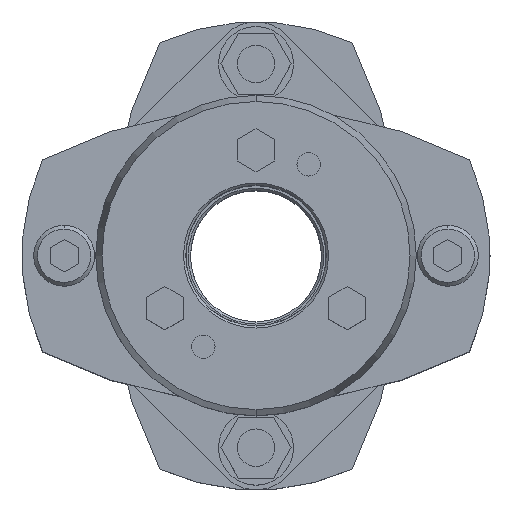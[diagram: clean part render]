
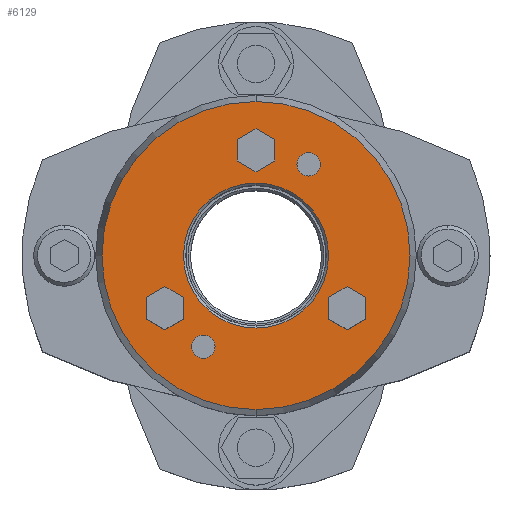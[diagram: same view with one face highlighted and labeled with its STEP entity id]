
A CAD part, top view. The second image highlights one B-rep face of the part: STEP entity #6129.
In plain terms, the highlighted planar face has unit normal (0, 0, 1).
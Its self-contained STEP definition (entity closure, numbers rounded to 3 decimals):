
#1677=CARTESIAN_POINT('',(0.,15.5,55.5));
#1678=VERTEX_POINT('',#1677);
#1694=CARTESIAN_POINT('',(0.,-15.5,55.5));
#1695=VERTEX_POINT('',#1694);
#1702=CARTESIAN_POINT('',(0.,0.,55.5));
#1703=DIRECTION('',(0.0,0.0,1.0));
#1704=DIRECTION('',(0.0,1.0,0.0));
#1705=AXIS2_PLACEMENT_3D('',#1702,#1703,#1704);
#1706=CIRCLE('',#1705,15.5);
#1707=EDGE_CURVE('',#1695,#1678,#1706,.T.);
#1865=CARTESIAN_POINT('',(0.,-32.91,55.5));
#1866=VERTEX_POINT('',#1865);
#1873=CARTESIAN_POINT('',(0.,32.91,55.5));
#1874=VERTEX_POINT('',#1873);
#1875=CARTESIAN_POINT('',(0.,0.,55.5));
#1876=DIRECTION('',(0.0,0.0,-1.0));
#1877=DIRECTION('',(0.0,-1.0,0.0));
#1878=AXIS2_PLACEMENT_3D('',#1875,#1876,#1877);
#1879=CIRCLE('',#1878,32.91);
#1880=EDGE_CURVE('',#1866,#1874,#1879,.T.);
#1975=CARTESIAN_POINT('',(-11.25,-16.986,55.5));
#1976=VERTEX_POINT('',#1975);
#1992=CARTESIAN_POINT('',(-11.25,-21.986,55.5));
#1993=VERTEX_POINT('',#1992);
#2000=CARTESIAN_POINT('',(-11.25,-19.486,55.5));
#2001=DIRECTION('',(0.0,0.0,-1.0));
#2002=DIRECTION('',(0.0,1.0,0.0));
#2003=AXIS2_PLACEMENT_3D('',#2000,#2001,#2002);
#2004=CIRCLE('',#2003,2.5);
#2005=EDGE_CURVE('',#1976,#1993,#2004,.T.);
#2017=CARTESIAN_POINT('',(11.25,21.986,55.5));
#2018=VERTEX_POINT('',#2017);
#2034=CARTESIAN_POINT('',(11.25,16.986,55.5));
#2035=VERTEX_POINT('',#2034);
#2042=CARTESIAN_POINT('',(11.25,19.486,55.5));
#2043=DIRECTION('',(0.0,0.0,-1.0));
#2044=DIRECTION('',(0.0,1.0,0.0));
#2045=AXIS2_PLACEMENT_3D('',#2042,#2043,#2044);
#2046=CIRCLE('',#2045,2.5);
#2047=EDGE_CURVE('',#2018,#2035,#2046,.T.);
#5156=CARTESIAN_POINT('',(11.25,19.486,55.5));
#5157=DIRECTION('',(0.0,0.0,-1.0));
#5158=DIRECTION('',(0.0,1.0,0.0));
#5159=AXIS2_PLACEMENT_3D('',#5156,#5157,#5158);
#5160=CIRCLE('',#5159,2.5);
#5161=EDGE_CURVE('',#2035,#2018,#5160,.T.);
#5190=CARTESIAN_POINT('',(-11.25,-19.486,55.5));
#5191=DIRECTION('',(0.0,0.0,-1.0));
#5192=DIRECTION('',(0.0,1.0,0.0));
#5193=AXIS2_PLACEMENT_3D('',#5190,#5191,#5192);
#5194=CIRCLE('',#5193,2.5);
#5195=EDGE_CURVE('',#1993,#1976,#5194,.T.);
#5233=CARTESIAN_POINT('',(0.,27.119,55.5));
#5234=VERTEX_POINT('',#5233);
#5241=CARTESIAN_POINT('',(-4.,24.809,55.5));
#5242=VERTEX_POINT('',#5241);
#5243=CARTESIAN_POINT('',(-4.,24.809,55.5));
#5244=DIRECTION('',(0.866,0.5,0.0));
#5245=VECTOR('',#5244,4.619);
#5246=LINE('',#5243,#5245);
#5247=EDGE_CURVE('',#5242,#5234,#5246,.T.);
#5271=CARTESIAN_POINT('',(4.,24.809,55.5));
#5272=VERTEX_POINT('',#5271);
#5279=CARTESIAN_POINT('',(0.,27.119,55.5));
#5280=DIRECTION('',(0.866,-0.5,0.0));
#5281=VECTOR('',#5280,4.619);
#5282=LINE('',#5279,#5281);
#5283=EDGE_CURVE('',#5234,#5272,#5282,.T.);
#5302=CARTESIAN_POINT('',(4.,20.191,55.5));
#5303=VERTEX_POINT('',#5302);
#5310=CARTESIAN_POINT('',(4.,24.809,55.5));
#5311=DIRECTION('',(0.0,-1.0,0.0));
#5312=VECTOR('',#5311,4.619);
#5313=LINE('',#5310,#5312);
#5314=EDGE_CURVE('',#5272,#5303,#5313,.T.);
#5333=CARTESIAN_POINT('',(0.,17.881,55.5));
#5334=VERTEX_POINT('',#5333);
#5341=CARTESIAN_POINT('',(4.,20.191,55.5));
#5342=DIRECTION('',(-0.866,-0.5,0.0));
#5343=VECTOR('',#5342,4.619);
#5344=LINE('',#5341,#5343);
#5345=EDGE_CURVE('',#5303,#5334,#5344,.T.);
#5364=CARTESIAN_POINT('',(-4.,20.191,55.5));
#5365=VERTEX_POINT('',#5364);
#5372=CARTESIAN_POINT('',(0.,17.881,55.5));
#5373=DIRECTION('',(-0.866,0.5,0.0));
#5374=VECTOR('',#5373,4.619);
#5375=LINE('',#5372,#5374);
#5376=EDGE_CURVE('',#5334,#5365,#5375,.T.);
#5394=CARTESIAN_POINT('',(-4.,20.191,55.5));
#5395=DIRECTION('',(0.0,1.0,0.0));
#5396=VECTOR('',#5395,4.619);
#5397=LINE('',#5394,#5396);
#5398=EDGE_CURVE('',#5365,#5242,#5397,.T.);
#5433=CARTESIAN_POINT('',(19.486,-6.631,55.5));
#5434=VERTEX_POINT('',#5433);
#5441=CARTESIAN_POINT('',(15.486,-8.941,55.5));
#5442=VERTEX_POINT('',#5441);
#5443=CARTESIAN_POINT('',(15.486,-8.941,55.5));
#5444=DIRECTION('',(0.866,0.5,0.0));
#5445=VECTOR('',#5444,4.619);
#5446=LINE('',#5443,#5445);
#5447=EDGE_CURVE('',#5442,#5434,#5446,.T.);
#5471=CARTESIAN_POINT('',(23.486,-8.941,55.5));
#5472=VERTEX_POINT('',#5471);
#5479=CARTESIAN_POINT('',(19.486,-6.631,55.5));
#5480=DIRECTION('',(0.866,-0.5,0.0));
#5481=VECTOR('',#5480,4.619);
#5482=LINE('',#5479,#5481);
#5483=EDGE_CURVE('',#5434,#5472,#5482,.T.);
#5502=CARTESIAN_POINT('',(23.486,-13.559,55.5));
#5503=VERTEX_POINT('',#5502);
#5510=CARTESIAN_POINT('',(23.486,-8.941,55.5));
#5511=DIRECTION('',(0.0,-1.0,0.0));
#5512=VECTOR('',#5511,4.619);
#5513=LINE('',#5510,#5512);
#5514=EDGE_CURVE('',#5472,#5503,#5513,.T.);
#5533=CARTESIAN_POINT('',(19.486,-15.869,55.5));
#5534=VERTEX_POINT('',#5533);
#5541=CARTESIAN_POINT('',(23.486,-13.559,55.5));
#5542=DIRECTION('',(-0.866,-0.5,0.0));
#5543=VECTOR('',#5542,4.619);
#5544=LINE('',#5541,#5543);
#5545=EDGE_CURVE('',#5503,#5534,#5544,.T.);
#5564=CARTESIAN_POINT('',(15.486,-13.559,55.5));
#5565=VERTEX_POINT('',#5564);
#5572=CARTESIAN_POINT('',(19.486,-15.869,55.5));
#5573=DIRECTION('',(-0.866,0.5,0.0));
#5574=VECTOR('',#5573,4.619);
#5575=LINE('',#5572,#5574);
#5576=EDGE_CURVE('',#5534,#5565,#5575,.T.);
#5594=CARTESIAN_POINT('',(15.486,-13.559,55.5));
#5595=DIRECTION('',(0.0,1.0,0.0));
#5596=VECTOR('',#5595,4.619);
#5597=LINE('',#5594,#5596);
#5598=EDGE_CURVE('',#5565,#5442,#5597,.T.);
#5633=CARTESIAN_POINT('',(-19.486,-6.631,55.5));
#5634=VERTEX_POINT('',#5633);
#5641=CARTESIAN_POINT('',(-23.486,-8.941,55.5));
#5642=VERTEX_POINT('',#5641);
#5643=CARTESIAN_POINT('',(-23.486,-8.941,55.5));
#5644=DIRECTION('',(0.866,0.5,0.0));
#5645=VECTOR('',#5644,4.619);
#5646=LINE('',#5643,#5645);
#5647=EDGE_CURVE('',#5642,#5634,#5646,.T.);
#5671=CARTESIAN_POINT('',(-15.486,-8.941,55.5));
#5672=VERTEX_POINT('',#5671);
#5679=CARTESIAN_POINT('',(-19.486,-6.631,55.5));
#5680=DIRECTION('',(0.866,-0.5,0.0));
#5681=VECTOR('',#5680,4.619);
#5682=LINE('',#5679,#5681);
#5683=EDGE_CURVE('',#5634,#5672,#5682,.T.);
#5702=CARTESIAN_POINT('',(-15.486,-13.559,55.5));
#5703=VERTEX_POINT('',#5702);
#5710=CARTESIAN_POINT('',(-15.486,-8.941,55.5));
#5711=DIRECTION('',(0.0,-1.0,0.0));
#5712=VECTOR('',#5711,4.619);
#5713=LINE('',#5710,#5712);
#5714=EDGE_CURVE('',#5672,#5703,#5713,.T.);
#5733=CARTESIAN_POINT('',(-19.486,-15.869,55.5));
#5734=VERTEX_POINT('',#5733);
#5741=CARTESIAN_POINT('',(-15.486,-13.559,55.5));
#5742=DIRECTION('',(-0.866,-0.5,0.0));
#5743=VECTOR('',#5742,4.619);
#5744=LINE('',#5741,#5743);
#5745=EDGE_CURVE('',#5703,#5734,#5744,.T.);
#5764=CARTESIAN_POINT('',(-23.486,-13.559,55.5));
#5765=VERTEX_POINT('',#5764);
#5772=CARTESIAN_POINT('',(-19.486,-15.869,55.5));
#5773=DIRECTION('',(-0.866,0.5,0.0));
#5774=VECTOR('',#5773,4.619);
#5775=LINE('',#5772,#5774);
#5776=EDGE_CURVE('',#5734,#5765,#5775,.T.);
#5794=CARTESIAN_POINT('',(-23.486,-13.559,55.5));
#5795=DIRECTION('',(0.0,1.0,0.0));
#5796=VECTOR('',#5795,4.619);
#5797=LINE('',#5794,#5796);
#5798=EDGE_CURVE('',#5765,#5642,#5797,.T.);
#6068=CARTESIAN_POINT('',(0.,0.,55.5));
#6069=DIRECTION('',(0.0,0.0,-1.0));
#6070=DIRECTION('',(0.0,-1.0,0.0));
#6071=AXIS2_PLACEMENT_3D('',#6068,#6069,#6070);
#6072=CIRCLE('',#6071,32.91);
#6073=EDGE_CURVE('',#1874,#1866,#6072,.T.);
#6078=CARTESIAN_POINT('',(0.,3.114,55.5));
#6079=DIRECTION('',(0.0,0.0,1.0));
#6080=DIRECTION('',(0.0,1.0,0.0));
#6081=AXIS2_PLACEMENT_3D('',#6078,#6079,#6080);
#6082=PLANE('',#6081);
#6083=ORIENTED_EDGE('',*,*,#6073,.F.);
#6084=ORIENTED_EDGE('',*,*,#1880,.F.);
#6085=EDGE_LOOP('',(#6083,#6084));
#6086=FACE_OUTER_BOUND('',#6085,.T.);
#6087=ORIENTED_EDGE('',*,*,#2047,.T.);
#6088=ORIENTED_EDGE('',*,*,#5161,.T.);
#6089=EDGE_LOOP('',(#6087,#6088));
#6090=FACE_BOUND('',#6089,.T.);
#6091=ORIENTED_EDGE('',*,*,#2005,.T.);
#6092=ORIENTED_EDGE('',*,*,#5195,.T.);
#6093=EDGE_LOOP('',(#6091,#6092));
#6094=FACE_BOUND('',#6093,.T.);
#6095=ORIENTED_EDGE('',*,*,#5247,.T.);
#6096=ORIENTED_EDGE('',*,*,#5283,.T.);
#6097=ORIENTED_EDGE('',*,*,#5314,.T.);
#6098=ORIENTED_EDGE('',*,*,#5345,.T.);
#6099=ORIENTED_EDGE('',*,*,#5376,.T.);
#6100=ORIENTED_EDGE('',*,*,#5398,.T.);
#6101=EDGE_LOOP('',(#6095,#6096,#6097,#6098,#6099,#6100));
#6102=FACE_BOUND('',#6101,.T.);
#6103=ORIENTED_EDGE('',*,*,#5447,.T.);
#6104=ORIENTED_EDGE('',*,*,#5483,.T.);
#6105=ORIENTED_EDGE('',*,*,#5514,.T.);
#6106=ORIENTED_EDGE('',*,*,#5545,.T.);
#6107=ORIENTED_EDGE('',*,*,#5576,.T.);
#6108=ORIENTED_EDGE('',*,*,#5598,.T.);
#6109=EDGE_LOOP('',(#6103,#6104,#6105,#6106,#6107,#6108));
#6110=FACE_BOUND('',#6109,.T.);
#6111=ORIENTED_EDGE('',*,*,#5647,.T.);
#6112=ORIENTED_EDGE('',*,*,#5683,.T.);
#6113=ORIENTED_EDGE('',*,*,#5714,.T.);
#6114=ORIENTED_EDGE('',*,*,#5745,.T.);
#6115=ORIENTED_EDGE('',*,*,#5776,.T.);
#6116=ORIENTED_EDGE('',*,*,#5798,.T.);
#6117=EDGE_LOOP('',(#6111,#6112,#6113,#6114,#6115,#6116));
#6118=FACE_BOUND('',#6117,.T.);
#6119=ORIENTED_EDGE('',*,*,#1707,.F.);
#6120=CARTESIAN_POINT('',(0.,0.,55.5));
#6121=DIRECTION('',(0.0,0.0,1.0));
#6122=DIRECTION('',(0.0,1.0,0.0));
#6123=AXIS2_PLACEMENT_3D('',#6120,#6121,#6122);
#6124=CIRCLE('',#6123,15.5);
#6125=EDGE_CURVE('',#1678,#1695,#6124,.T.);
#6126=ORIENTED_EDGE('',*,*,#6125,.F.);
#6127=EDGE_LOOP('',(#6119,#6126));
#6128=FACE_BOUND('',#6127,.T.);
#6129=ADVANCED_FACE('',(#6086,#6090,#6094,#6102,#6110,#6118,#6128),#6082,.T.);
